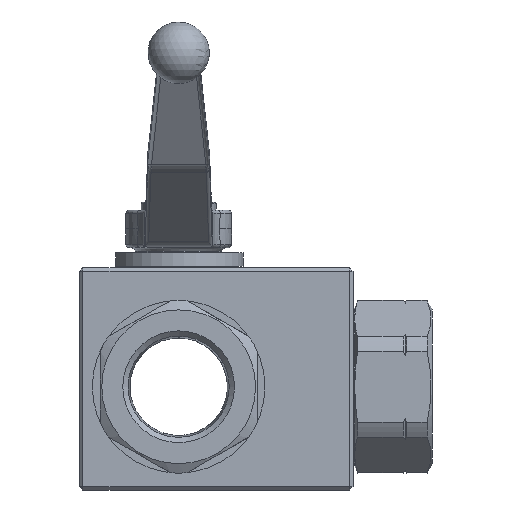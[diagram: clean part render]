
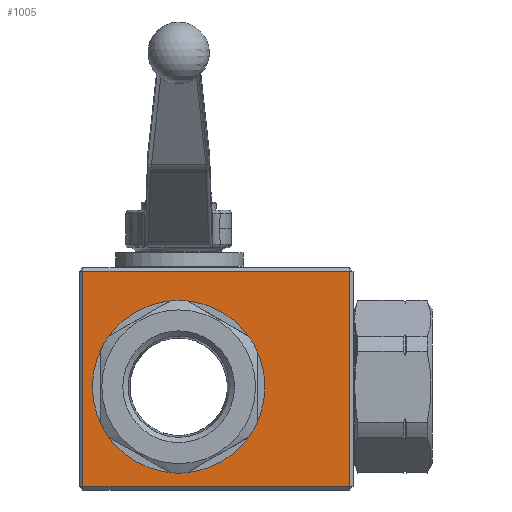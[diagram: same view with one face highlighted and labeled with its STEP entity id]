
A CAD part, front view. The second image highlights one B-rep face of the part: STEP entity #1005.
In plain terms, the highlighted planar face has unit normal (0, -1, 0).
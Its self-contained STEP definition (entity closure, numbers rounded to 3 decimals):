
#1005 = ADVANCED_FACE( '', ( #2114, #2115 ), #2116, .F. );
#2114 = FACE_OUTER_BOUND( '', #3776, .T. );
#2115 = FACE_BOUND( '', #3777, .T. );
#2116 = PLANE( '', #3778 );
#3776 = EDGE_LOOP( '', ( #6543, #6544, #6545, #6546 ) );
#3777 = EDGE_LOOP( '', ( #6547 ) );
#3778 = AXIS2_PLACEMENT_3D( '', #6548, #6549, #6550 );
#6543 = ORIENTED_EDGE( '', *, *, #9238, .T. );
#6544 = ORIENTED_EDGE( '', *, *, #9239, .T. );
#6545 = ORIENTED_EDGE( '', *, *, #9240, .T. );
#6546 = ORIENTED_EDGE( '', *, *, #9241, .T. );
#6547 = ORIENTED_EDGE( '', *, *, #9242, .F. );
#6548 = CARTESIAN_POINT( '', ( -29., -32.5, 34.8 ) );
#6549 = DIRECTION( '', ( 0., 1., 0. ) );
#6550 = DIRECTION( '', ( 0., 0., 1. ) );
#9238 = EDGE_CURVE( '', #11087, #11088, #11089, .T. );
#9239 = EDGE_CURVE( '', #11088, #11090, #11091, .T. );
#9240 = EDGE_CURVE( '', #11090, #11069, #11092, .T. );
#9241 = EDGE_CURVE( '', #11069, #11087, #11093, .T. );
#9242 = EDGE_CURVE( '', #11094, #11094, #11095, .T. );
#11069 = VERTEX_POINT( '', #15016 );
#11087 = VERTEX_POINT( '', #15038 );
#11088 = VERTEX_POINT( '', #15039 );
#11089 = LINE( '', #15040, #15041 );
#11090 = VERTEX_POINT( '', #15042 );
#11091 = LINE( '', #15043, #15044 );
#11092 = LINE( '', #15045, #15046 );
#11093 = LINE( '', #15047, #15048 );
#11094 = VERTEX_POINT( '', #15049 );
#11095 = CIRCLE( '', #15050, 25.25 );
#15016 = CARTESIAN_POINT( '', ( 50., -32.5, -29.2 ) );
#15038 = CARTESIAN_POINT( '', ( 50., -32.5, 33.8 ) );
#15039 = CARTESIAN_POINT( '', ( -28., -32.5, 33.8 ) );
#15040 = CARTESIAN_POINT( '', ( -29., -32.5, 33.8 ) );
#15041 = VECTOR( '', #17591, 1000. );
#15042 = CARTESIAN_POINT( '', ( -28., -32.5, -29.2 ) );
#15043 = CARTESIAN_POINT( '', ( -28., -32.5, 34.8 ) );
#15044 = VECTOR( '', #17592, 1000. );
#15045 = CARTESIAN_POINT( '', ( 51., -32.5, -29.2 ) );
#15046 = VECTOR( '', #17593, 1000. );
#15047 = CARTESIAN_POINT( '', ( 50., -32.5, 34.8 ) );
#15048 = VECTOR( '', #17594, 1000. );
#15049 = CARTESIAN_POINT( '', ( 25.25, -32.5, 0. ) );
#15050 = AXIS2_PLACEMENT_3D( '', #17595, #17596, #17597 );
#17591 = DIRECTION( '', ( -1., 0., 0. ) );
#17592 = DIRECTION( '', ( 0., 0., -1. ) );
#17593 = DIRECTION( '', ( 1., 0., 0. ) );
#17594 = DIRECTION( '', ( 0., 0., 1. ) );
#17595 = CARTESIAN_POINT( '', ( 0., -32.5, 0. ) );
#17596 = DIRECTION( '', ( 0., -1., 0. ) );
#17597 = DIRECTION( '', ( 1., 0., 0. ) );
